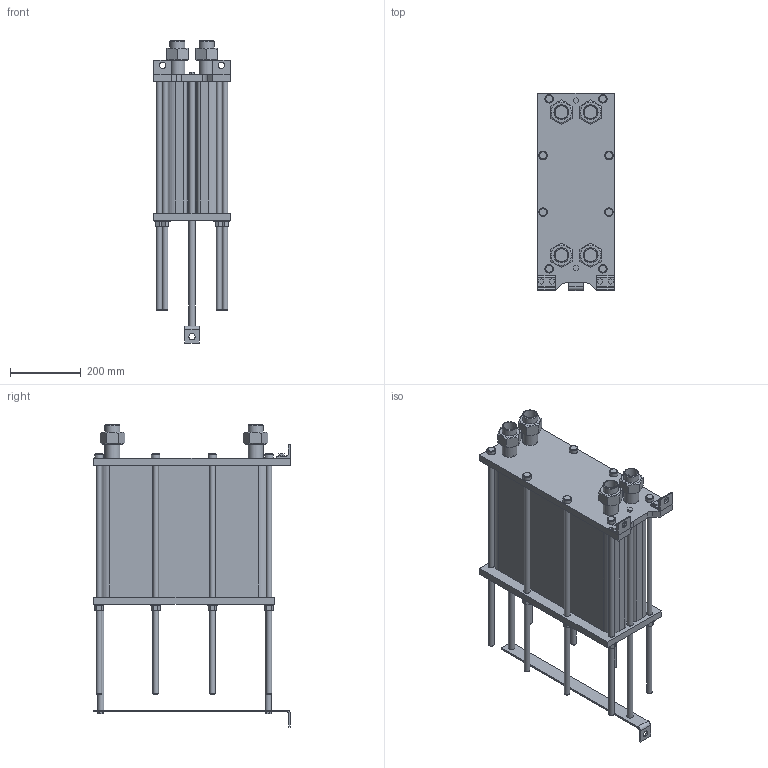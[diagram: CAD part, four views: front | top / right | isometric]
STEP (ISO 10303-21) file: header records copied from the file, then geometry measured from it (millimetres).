
FILE_DESCRIPTION(/* description */ (''),/* implementation_level */ '2;1');
FILE_NAME(/* name */ 'C:\Users\zhuro\Desktop\ENCO\TO\ЭН-004\ЭН-0,5-004-120-1.stp',/* time_stamp */ '2022-06-06T10:54:35+03:00',/* author */ ('zhuro'),/* organization */ (''),/* preprocessor_version */ 'ST-DEVELOPER v18.1',/* originating_system */ 'Autodesk Inventor 2022',/* authorisation */ '');
FILE_SCHEMA (('AUTOMOTIVE_DESIGN { 1 0 10303 214 3 1 1 }'));
Length unit declared in the file: millimetre
Products named in the file (1): ЭН-0,5-004-120-1
Bounding box: 216 x 555 x 853 mm (x, y, z)
Volume: 33723323.4 mm3; surface area: 1764038.7 mm2
Topology: 40 solids, 40 shells, 403 faces, 865 edges, 574 vertices
Faces by surface type: plane 272, cylinder 103, cone 28
Full cylindrical faces by diameter (mm): 10 x4, 16 x16, 18 x29, 20 x2, 24 x8, 28 x8, 36.3 x5, 42.3 x9
Entity records: 11137 total; most frequent: CARTESIAN_POINT 1939, DIRECTION 1879, ORIENTED_EDGE 1730, EDGE_CURVE 865, AXIS2_PLACEMENT_3D 658, VERTEX_POINT 574, LINE 563, VECTOR 563
